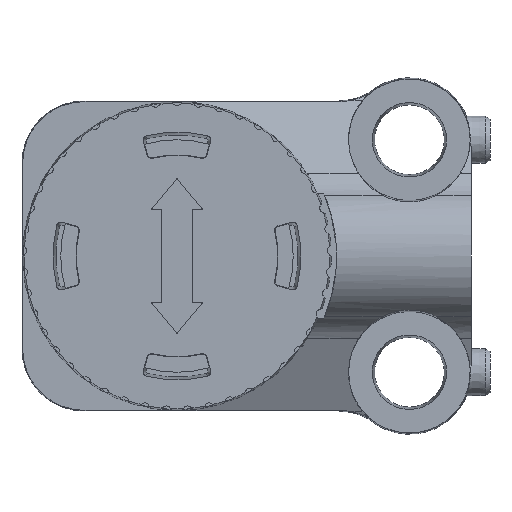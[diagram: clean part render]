
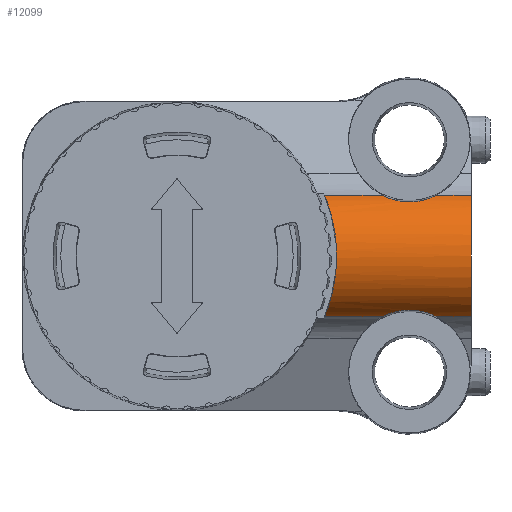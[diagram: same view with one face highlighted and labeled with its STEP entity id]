
A CAD part, front view. The second image highlights one B-rep face of the part: STEP entity #12099.
In plain terms, the highlighted cylindrical face has radius 4.3 mm (diameter 8.6 mm), a partial arc.
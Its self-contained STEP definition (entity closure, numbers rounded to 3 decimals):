
#73=CARTESIAN_POINT('',(13.245,19.233,-53.92));
#74=VERTEX_POINT('',#73);
#75=CARTESIAN_POINT('',(15.,18.484,-53.487));
#76=VERTEX_POINT('',#75);
#77=CARTESIAN_POINT('',(13.245,19.233,-53.92));
#78=CARTESIAN_POINT('',(13.392,19.059,-53.842));
#79=CARTESIAN_POINT('',(13.6,18.889,-53.748));
#80=CARTESIAN_POINT('',(13.968,18.685,-53.625));
#81=CARTESIAN_POINT('',(14.166,18.607,-53.573));
#82=CARTESIAN_POINT('',(14.582,18.507,-53.504));
#83=CARTESIAN_POINT('',(14.799,18.484,-53.487));
#84=CARTESIAN_POINT('',(15.,18.484,-53.487));
#85=B_SPLINE_CURVE_WITH_KNOTS('',3,(#77,#78,#79,#80,#81,#82,#83,#84),.UNSPECIFIED.,.F.,.U.,(4,2,2,4),(-0.557,-0.486,-0.426,-0.365),.UNSPECIFIED.);
#86=EDGE_CURVE('',#74,#76,#85,.T.);
#126=CARTESIAN_POINT('',(16.755,19.233,-53.92));
#127=VERTEX_POINT('',#126);
#137=CARTESIAN_POINT('',(15.,18.484,-53.487));
#138=CARTESIAN_POINT('',(15.275,18.484,-53.487));
#139=CARTESIAN_POINT('',(15.569,18.527,-53.519));
#140=CARTESIAN_POINT('',(16.109,18.711,-53.642));
#141=CARTESIAN_POINT('',(16.356,18.853,-53.731));
#142=CARTESIAN_POINT('',(16.62,19.086,-53.851));
#143=CARTESIAN_POINT('',(16.69,19.156,-53.886));
#144=CARTESIAN_POINT('',(16.755,19.233,-53.92));
#145=B_SPLINE_CURVE_WITH_KNOTS('',3,(#137,#138,#139,#140,#141,#142,#143,#144),.UNSPECIFIED.,.F.,.U.,(4,2,2,4),(0.0,0.082,0.165,0.194),.UNSPECIFIED.);
#146=EDGE_CURVE('',#76,#127,#145,.T.);
#176=CARTESIAN_POINT('',(13.245,19.233,-46.08));
#177=VERTEX_POINT('',#176);
#187=CARTESIAN_POINT('',(15.,18.484,-46.513));
#188=VERTEX_POINT('',#187);
#189=CARTESIAN_POINT('',(15.,18.484,-46.513));
#190=CARTESIAN_POINT('',(14.799,18.484,-46.513));
#191=CARTESIAN_POINT('',(14.582,18.507,-46.496));
#192=CARTESIAN_POINT('',(14.166,18.607,-46.427));
#193=CARTESIAN_POINT('',(13.968,18.685,-46.375));
#194=CARTESIAN_POINT('',(13.6,18.889,-46.252));
#195=CARTESIAN_POINT('',(13.392,19.059,-46.158));
#196=CARTESIAN_POINT('',(13.245,19.233,-46.08));
#197=B_SPLINE_CURVE_WITH_KNOTS('',3,(#189,#190,#191,#192,#193,#194,#195,#196),.UNSPECIFIED.,.F.,.U.,(4,2,2,4),(-0.365,-0.305,-0.245,-0.174),.UNSPECIFIED.);
#198=EDGE_CURVE('',#188,#177,#197,.T.);
#200=CARTESIAN_POINT('',(16.755,19.233,-46.08));
#201=VERTEX_POINT('',#200);
#202=CARTESIAN_POINT('',(16.755,19.233,-46.08));
#203=CARTESIAN_POINT('',(16.69,19.156,-46.114));
#204=CARTESIAN_POINT('',(16.62,19.086,-46.149));
#205=CARTESIAN_POINT('',(16.356,18.853,-46.269));
#206=CARTESIAN_POINT('',(16.109,18.711,-46.358));
#207=CARTESIAN_POINT('',(15.569,18.527,-46.481));
#208=CARTESIAN_POINT('',(15.275,18.484,-46.513));
#209=CARTESIAN_POINT('',(15.,18.484,-46.513));
#210=B_SPLINE_CURVE_WITH_KNOTS('',3,(#202,#203,#204,#205,#206,#207,#208,#209),.UNSPECIFIED.,.F.,.U.,(4,2,2,4),(-0.918,-0.889,-0.806,-0.724),.UNSPECIFIED.);
#211=EDGE_CURVE('',#201,#188,#210,.T.);
#8606=CARTESIAN_POINT('',(9.525,19.233,-46.08));
#8607=VERTEX_POINT('',#8606);
#8627=CARTESIAN_POINT('',(9.525,19.233,-53.92));
#8628=VERTEX_POINT('',#8627);
#8639=CARTESIAN_POINT('',(9.525,19.233,-46.08));
#8640=CARTESIAN_POINT('',(9.615,18.749,-46.298));
#8641=CARTESIAN_POINT('',(9.732,18.311,-46.608));
#8642=CARTESIAN_POINT('',(9.958,17.582,-47.337));
#8643=CARTESIAN_POINT('',(10.08,17.252,-47.816));
#8644=CARTESIAN_POINT('',(10.252,16.811,-48.874));
#8645=CARTESIAN_POINT('',(10.3,16.7,-49.453));
#8646=CARTESIAN_POINT('',(10.3,16.7,-50.547));
#8647=CARTESIAN_POINT('',(10.252,16.811,-51.126));
#8648=CARTESIAN_POINT('',(10.08,17.252,-52.184));
#8649=CARTESIAN_POINT('',(9.958,17.582,-52.663));
#8650=CARTESIAN_POINT('',(9.732,18.311,-53.392));
#8651=CARTESIAN_POINT('',(9.615,18.749,-53.702));
#8652=CARTESIAN_POINT('',(9.525,19.233,-53.92));
#8653=B_SPLINE_CURVE_WITH_KNOTS('',3,(#8639,#8640,#8641,#8642,#8643,#8644,#8645,#8646,#8647,#8648,#8649,#8650,#8651,#8652),.UNSPECIFIED.,.F.,.U.,(4,2,2,2,2,2,4),(1.489,1.642,1.806,1.97,2.134,2.298,2.451),.UNSPECIFIED.);
#8654=EDGE_CURVE('',#8607,#8628,#8653,.T.);
#12040=CARTESIAN_POINT('',(13.245,19.233,-46.08));
#12041=DIRECTION('',(-1.0,0.0,0.0));
#12042=VECTOR('',#12041,3.721);
#12043=LINE('',#12040,#12042);
#12044=EDGE_CURVE('',#177,#8607,#12043,.T.);
#12057=CARTESIAN_POINT('',(19.,21.,-50.));
#12058=DIRECTION('',(1.0,0.0,0.0));
#12059=DIRECTION('',(0.0,-0.411,0.912));
#12060=AXIS2_PLACEMENT_3D('',#12057,#12058,#12059);
#12061=CYLINDRICAL_SURFACE('',#12060,4.3);
#12062=ORIENTED_EDGE('',*,*,#8654,.T.);
#12063=CARTESIAN_POINT('',(13.245,19.233,-53.92));
#12064=DIRECTION('',(-1.0,0.0,0.0));
#12065=VECTOR('',#12064,3.721);
#12066=LINE('',#12063,#12065);
#12067=EDGE_CURVE('',#74,#8628,#12066,.T.);
#12068=ORIENTED_EDGE('',*,*,#12067,.F.);
#12069=ORIENTED_EDGE('',*,*,#86,.T.);
#12070=ORIENTED_EDGE('',*,*,#146,.T.);
#12071=CARTESIAN_POINT('',(19.,19.233,-53.92));
#12072=VERTEX_POINT('',#12071);
#12073=CARTESIAN_POINT('',(19.,19.233,-53.92));
#12074=DIRECTION('',(-1.0,0.0,0.0));
#12075=VECTOR('',#12074,2.245);
#12076=LINE('',#12073,#12075);
#12077=EDGE_CURVE('',#12072,#127,#12076,.T.);
#12078=ORIENTED_EDGE('',*,*,#12077,.F.);
#12079=CARTESIAN_POINT('',(19.,19.233,-46.08));
#12080=VERTEX_POINT('',#12079);
#12081=CARTESIAN_POINT('',(19.,21.,-50.));
#12082=DIRECTION('',(1.,0.0,0.0));
#12083=DIRECTION('',(0.0,-0.411,0.912));
#12084=AXIS2_PLACEMENT_3D('',#12081,#12082,#12083);
#12085=CIRCLE('',#12084,4.3);
#12086=EDGE_CURVE('',#12080,#12072,#12085,.T.);
#12087=ORIENTED_EDGE('',*,*,#12086,.F.);
#12088=CARTESIAN_POINT('',(19.,19.233,-46.08));
#12089=DIRECTION('',(-1.0,0.0,0.0));
#12090=VECTOR('',#12089,2.245);
#12091=LINE('',#12088,#12090);
#12092=EDGE_CURVE('',#12080,#201,#12091,.T.);
#12093=ORIENTED_EDGE('',*,*,#12092,.T.);
#12094=ORIENTED_EDGE('',*,*,#211,.T.);
#12095=ORIENTED_EDGE('',*,*,#198,.T.);
#12096=ORIENTED_EDGE('',*,*,#12044,.T.);
#12097=EDGE_LOOP('',(#12062,#12068,#12069,#12070,#12078,#12087,#12093,#12094,#12095,#12096));
#12098=FACE_OUTER_BOUND('',#12097,.T.);
#12099=ADVANCED_FACE('',(#12098),#12061,.T.);
